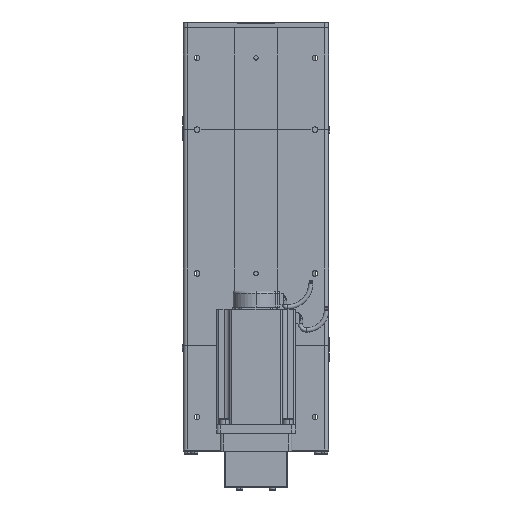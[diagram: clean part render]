
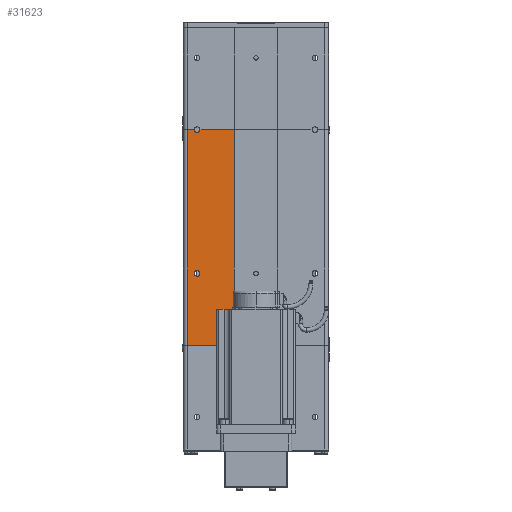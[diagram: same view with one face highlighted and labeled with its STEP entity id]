
A CAD part, front view. The second image highlights one B-rep face of the part: STEP entity #31623.
In plain terms, the highlighted planar face has unit normal (0, -1, 0).
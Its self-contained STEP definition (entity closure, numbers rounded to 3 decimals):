
#24474 = AXIS2_PLACEMENT_3D ( 'NONE', #24646, #24645, #24644 ) ;
#24554 = CIRCLE ( 'NONE', #24474, 4. ) ;
#24644 = DIRECTION ( 'NONE',  ( 1., 0., 0. ) ) ;
#24645 = DIRECTION ( 'NONE',  ( 0., -1., 0. ) ) ;
#24646 = CARTESIAN_POINT ( 'NONE',  ( -82., -34.5, 300. ) ) ;
#24895 = DIRECTION ( 'NONE',  ( 0., 0., 1. ) ) ;
#24896 = VECTOR ( 'NONE', #24895, 1000. ) ;
#24897 = CARTESIAN_POINT ( 'NONE',  ( -30., -34.5, 0. ) ) ;
#24898 = LINE ( 'NONE', #24897, #24896 ) ;
#30752 = VERTEX_POINT ( 'NONE', #51973 ) ;
#30961 = VERTEX_POINT ( 'NONE', #53064 ) ;
#31179 = VERTEX_POINT ( 'NONE', #54081 ) ;
#31188 = EDGE_CURVE ( 'NONE', #31179, #30752, #54070, .T. ) ;
#31275 = EDGE_CURVE ( 'NONE', #31682, #30961, #54165, .T. ) ;
#31536 = ORIENTED_EDGE ( 'NONE', *, *, #31671, .T. ) ;
#31607 = ORIENTED_EDGE ( 'NONE', *, *, #37552, .F. ) ;
#31609 = EDGE_CURVE ( 'NONE', #37744, #37554, #54936, .T. ) ;
#31613 = EDGE_LOOP ( 'NONE', ( #31624, #31827, #31821, #31536, #37613, #31926 ) ) ;
#31623 = ADVANCED_FACE ( 'NONE', ( #55063, #54937 ), #55010, .F. ) ;
#31624 = ORIENTED_EDGE ( 'NONE', *, *, #37584, .F. ) ;
#31639 = ORIENTED_EDGE ( 'NONE', *, *, #31609, .F. ) ;
#31671 = EDGE_CURVE ( 'NONE', #31179, #31682, #55143, .T. ) ;
#31682 = VERTEX_POINT ( 'NONE', #55248 ) ;
#31821 = ORIENTED_EDGE ( 'NONE', *, *, #31188, .F. ) ;
#31827 = ORIENTED_EDGE ( 'NONE', *, *, #31836, .F. ) ;
#31836 = EDGE_CURVE ( 'NONE', #30752, #37466, #24554, .T. ) ;
#31859 = EDGE_LOOP ( 'NONE', ( #31639, #31607 ) ) ;
#31887 = EDGE_CURVE ( 'NONE', #30961, #37695, #24898, .T. ) ;
#31926 = ORIENTED_EDGE ( 'NONE', *, *, #31887, .T. ) ;
#37284 = CARTESIAN_POINT ( 'NONE',  ( -78., -34.5, 300. ) ) ;
#37466 = VERTEX_POINT ( 'NONE', #37284 ) ;
#37552 = EDGE_CURVE ( 'NONE', #37554, #37744, #40064, .T. ) ;
#37554 = VERTEX_POINT ( 'NONE', #40214 ) ;
#37584 = EDGE_CURVE ( 'NONE', #37466, #37695, #40238, .T. ) ;
#37613 = ORIENTED_EDGE ( 'NONE', *, *, #31275, .T. ) ;
#37695 = VERTEX_POINT ( 'NONE', #50205 ) ;
#37744 = VERTEX_POINT ( 'NONE', #40414 ) ;
#40064 = CIRCLE ( 'NONE', #40126, 4. ) ;
#40073 = CARTESIAN_POINT ( 'NONE',  ( -82., -34.5, 100. ) ) ;
#40124 = DIRECTION ( 'NONE',  ( 1., 0., 0. ) ) ;
#40125 = DIRECTION ( 'NONE',  ( 0., -1., 0. ) ) ;
#40126 = AXIS2_PLACEMENT_3D ( 'NONE', #40073, #40125, #40124 ) ;
#40214 = CARTESIAN_POINT ( 'NONE',  ( -86., -34.5, 100. ) ) ;
#40226 = DIRECTION ( 'NONE',  ( 1., 0., 0. ) ) ;
#40227 = VECTOR ( 'NONE', #40226, 1000. ) ;
#40228 = CARTESIAN_POINT ( 'NONE',  ( -96., -34.5, 300. ) ) ;
#40238 = LINE ( 'NONE', #40228, #40227 ) ;
#40414 = CARTESIAN_POINT ( 'NONE',  ( -78., -34.5, 100. ) ) ;
#50205 = CARTESIAN_POINT ( 'NONE',  ( -30., -34.5, 300. ) ) ;
#51973 = CARTESIAN_POINT ( 'NONE',  ( -86., -34.5, 300. ) ) ;
#53064 = CARTESIAN_POINT ( 'NONE',  ( -30., -34.5, 0. ) ) ;
#53893 = DIRECTION ( 'NONE',  ( 1., 0., 0. ) ) ;
#53895 = VECTOR ( 'NONE', #53893, 1000. ) ;
#54069 = CARTESIAN_POINT ( 'NONE',  ( -96., -34.5, 300. ) ) ;
#54070 = LINE ( 'NONE', #54069, #53895 ) ;
#54081 = CARTESIAN_POINT ( 'NONE',  ( -96., -34.5, 300. ) ) ;
#54161 = VECTOR ( 'NONE', #54586, 1000. ) ;
#54163 = CARTESIAN_POINT ( 'NONE',  ( -96., -34.5, 0. ) ) ;
#54165 = LINE ( 'NONE', #54163, #54161 ) ;
#54586 = DIRECTION ( 'NONE',  ( 1., 0., 0. ) ) ;
#54907 = DIRECTION ( 'NONE',  ( 1., 0., 0. ) ) ;
#54908 = DIRECTION ( 'NONE',  ( 0., -1., 0. ) ) ;
#54936 = CIRCLE ( 'NONE', #55009, 4. ) ;
#54937 = FACE_OUTER_BOUND ( 'NONE', #31613, .T. ) ;
#54939 = DIRECTION ( 'NONE',  ( -1., 0., 0. ) ) ;
#54940 = DIRECTION ( 'NONE',  ( 0., 1., 0. ) ) ;
#54941 = CARTESIAN_POINT ( 'NONE',  ( -96., -34.5, 300. ) ) ;
#55003 = AXIS2_PLACEMENT_3D ( 'NONE', #54941, #54940, #54939 ) ;
#55009 = AXIS2_PLACEMENT_3D ( 'NONE', #55032, #54908, #54907 ) ;
#55010 = PLANE ( 'NONE',  #55003 ) ;
#55032 = CARTESIAN_POINT ( 'NONE',  ( -82., -34.5, 100. ) ) ;
#55063 = FACE_BOUND ( 'NONE', #31859, .T. ) ;
#55142 = CARTESIAN_POINT ( 'NONE',  ( -96., -34.5, 300. ) ) ;
#55143 = LINE ( 'NONE', #55142, #55275 ) ;
#55248 = CARTESIAN_POINT ( 'NONE',  ( -96., -34.5, 0. ) ) ;
#55274 = DIRECTION ( 'NONE',  ( 0., 0., -1. ) ) ;
#55275 = VECTOR ( 'NONE', #55274, 1000. ) ;
